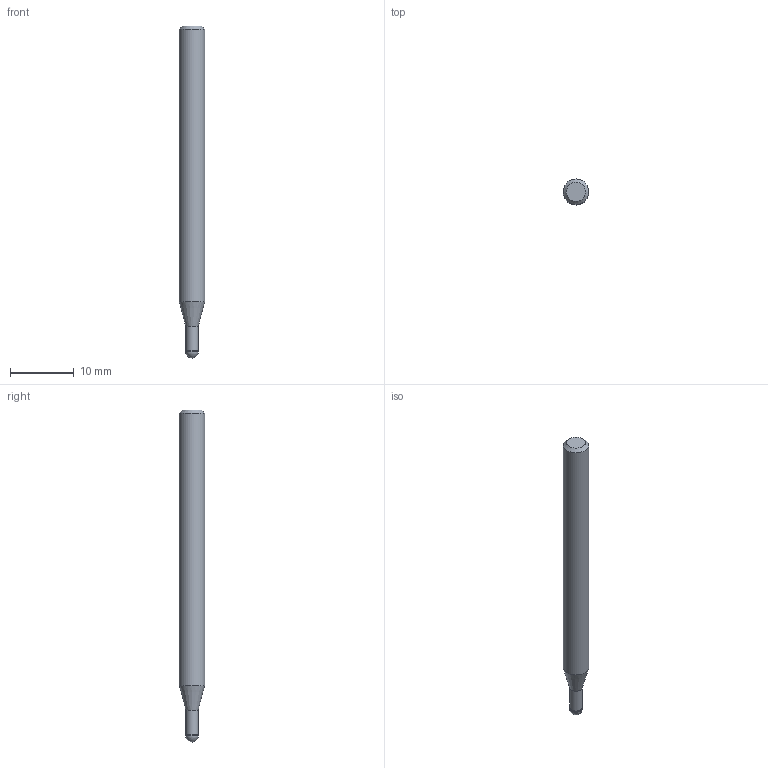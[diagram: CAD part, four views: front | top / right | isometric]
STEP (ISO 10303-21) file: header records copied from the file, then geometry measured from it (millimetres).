
FILE_DESCRIPTION((''),'2;1');
FILE_NAME('C:\Users\nsx150\AppData\Local\Temp\Mastercam 2021\LJSIDMOTM8\TEMP.step','2021-08-03T14:23:13',(''),(''),'STEP Write','Mastercam 2021 ... CNC Software, Inc.','');
FILE_SCHEMA(('AUTOMOTIVE_DESIGN'));
Length unit declared in the file: millimetre
Products named in the file (1): None
Bounding box: 4 x 4 x 52 mm (x, y, z)
Volume: 582.5 mm3; surface area: 624.8 mm2
Topology: 2 solids, 2 shells, 9 faces, 14 edges, 8 vertices
Faces by surface type: plane 3, cylinder 3, cone 2, sphere 1
Full cylindrical faces by diameter (mm): 1.94 x1, 2 x1, 4 x1
Entity records: 211 total; most frequent: DIRECTION 36, CARTESIAN_POINT 25, AXIS2_PLACEMENT_3D 18, ORIENTED_EDGE 14, EDGE_LOOP 14, STYLED_ITEM 12, ADVANCED_FACE 9, FACE_BOUND 8
